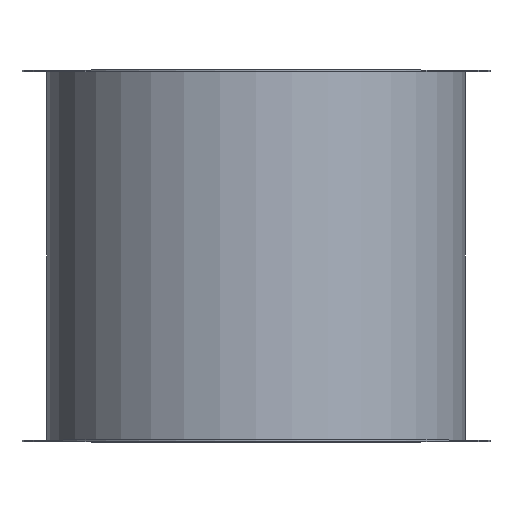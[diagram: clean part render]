
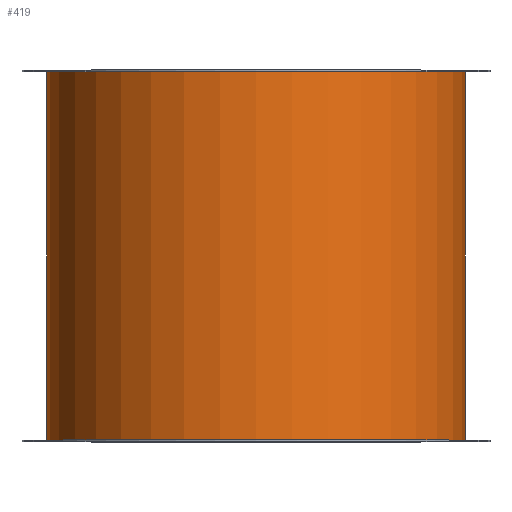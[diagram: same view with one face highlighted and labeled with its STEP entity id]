
A CAD part, top view. The second image highlights one B-rep face of the part: STEP entity #419.
In plain terms, the highlighted cylindrical face has radius 282 mm (diameter 564 mm), a full revolution.
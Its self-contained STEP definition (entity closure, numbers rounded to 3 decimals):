
#55=FACE_BOUND('',#156,.T.);
#95=FACE_OUTER_BOUND('',#155,.T.);
#155=EDGE_LOOP('',(#355));
#156=EDGE_LOOP('',(#356));
#215=CIRCLE('',#487,282.);
#216=CIRCLE('',#489,282.);
#255=VERTEX_POINT('',#718);
#256=VERTEX_POINT('',#721);
#295=EDGE_CURVE('',#255,#255,#215,.T.);
#296=EDGE_CURVE('',#256,#256,#216,.T.);
#355=ORIENTED_EDGE('',*,*,#296,.F.);
#356=ORIENTED_EDGE('',*,*,#295,.T.);
#397=CYLINDRICAL_SURFACE('',#488,282.);
#419=ADVANCED_FACE('',(#95,#55),#397,.T.);
#487=AXIS2_PLACEMENT_3D('',#719,#609,#610);
#488=AXIS2_PLACEMENT_3D('',#720,#611,#612);
#489=AXIS2_PLACEMENT_3D('',#722,#613,#614);
#609=DIRECTION('center_axis',(0.,1.,0.));
#610=DIRECTION('ref_axis',(1.,0.,0.));
#611=DIRECTION('center_axis',(0.,1.,0.));
#612=DIRECTION('ref_axis',(-1.,0.,0.));
#613=DIRECTION('center_axis',(0.,1.,0.));
#614=DIRECTION('ref_axis',(1.,0.,0.));
#718=CARTESIAN_POINT('',(-282.,2.,0.));
#719=CARTESIAN_POINT('Origin',(0.,2.,0.));
#720=CARTESIAN_POINT('Origin',(0.,250.,0.));
#721=CARTESIAN_POINT('',(-282.,498.,0.));
#722=CARTESIAN_POINT('Origin',(0.,498.,0.));
